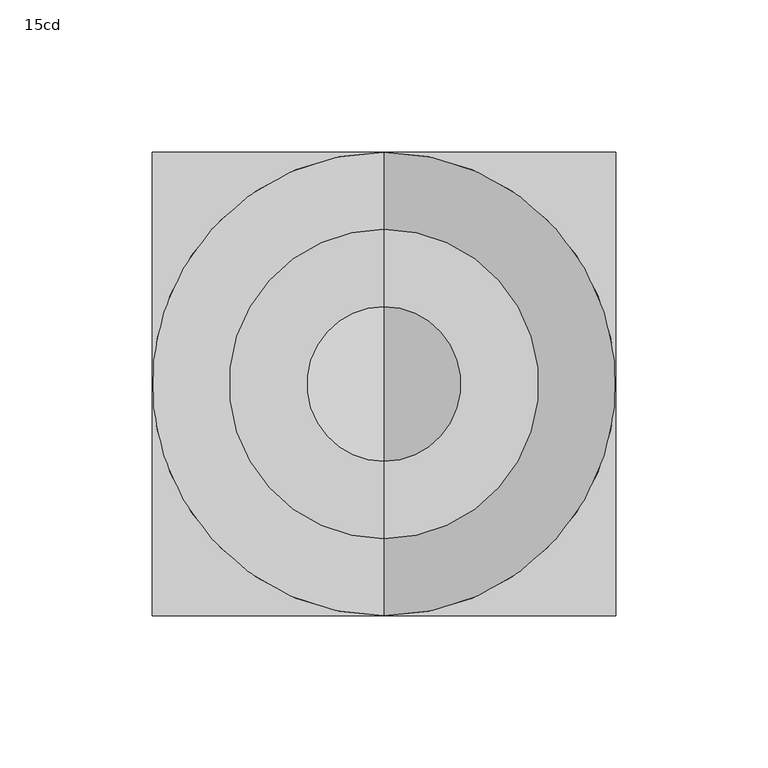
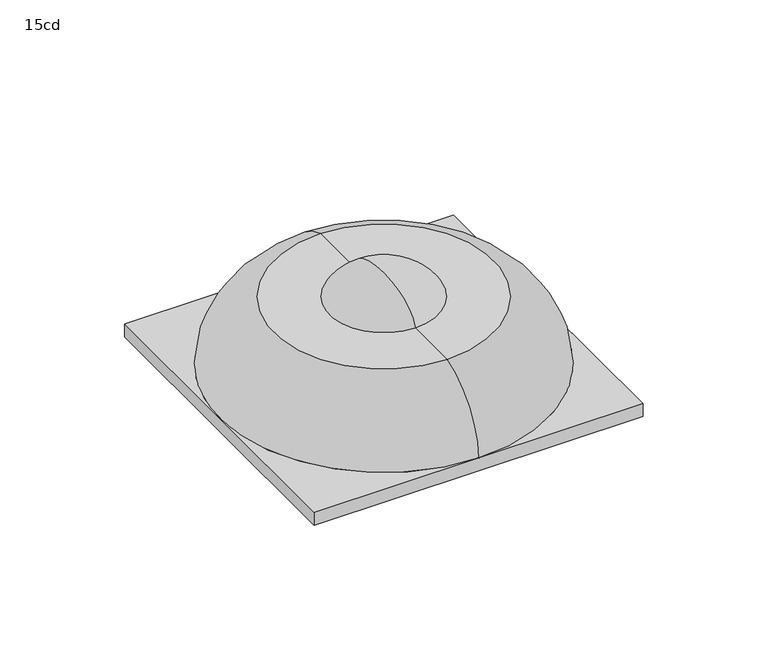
"""IFC4 building model written with IfcOpenShell, lengths in millimetres: alarm geometry, FireBIM Tutorial Strobe (Ceiling) : 15cd."""

from ifc_helpers import new_model, si_unit, point, frame, origin, place, context, project, spatial, circle_curve, ellipse_curve, trimmed, source, transform, mapped, element, save
from ifc_brep_helpers import plane_surface, revolved_surface, spline_curve, advanced_brep


def alarm_15cd_51c740ec(model_context):
    return source(origin(), model_context, "Body", "AdvancedBrep", [
        advanced_brep(
        [(0.0, -25.4, 33.02), (0.0, 25.4, 33.02), (0.0, 50.8, 33.02), (0.0, -50.8, 33.02), (76.2, 76.2, -6.35), (76.2, -76.2, -6.35), (-76.2, -76.2, -6.35), (-76.2, 76.2, -6.35), (76.2, 76.2, 0.0), (0.0, 76.2, 0.0), (76.2, -5.6e-06, 0.0), (-76.2, 76.2, 0.0), (-76.2, 5.6e-06, 0.0), (-76.2, -76.2, 0.0), (0.0, -76.2, 0.0), (76.2, -76.2, 0.0), (0.0, 0.0, 44.45)],
        [
            (0, 1, circle_curve(frame((0.0, 0.0, 33.02), z_axis=(0.0, 0.0, -1.0), x_axis=(0.0, 1.0, 0.0)), 25.4)),
            (1, 2),
            (2, 3, circle_curve(frame((0.0, 0.0, 33.02), z_axis=(0.0, 0.0, 1.0), x_axis=(0.0, 1.0, 0.0)), 50.8)),
            (3, 0),
            (1, 0, circle_curve(frame((0.0, 0.0, 33.02), z_axis=(0.0, 0.0, -1.0), x_axis=(0.0, 1.0, 0.0)), 25.4)),
            (3, 2, circle_curve(frame((0.0, 0.0, 33.02), z_axis=(0.0, 0.0, 1.0), x_axis=(0.0, 1.0, 0.0)), 50.8)),
            (4, 5),
            (5, 6),
            (6, 7),
            (7, 4),
            (8, 9),
            (9, 10, circle_curve(frame((0.0, 0.0, 0.0), z_axis=(0.0, 0.0, -1.0), x_axis=(0.0, 1.0, 0.0)), 76.2)),
            (10, 8),
            (9, 11),
            (11, 12),
            (12, 9, circle_curve(frame((0.0, 0.0, 0.0), z_axis=(0.0, 0.0, -1.0), x_axis=(0.0, 1.0, 0.0)), 76.2)),
            (13, 14),
            (14, 12, circle_curve(frame((0.0, 0.0, 0.0), z_axis=(0.0, 0.0, -1.0), x_axis=(0.0, 1.0, 0.0)), 76.2)),
            (12, 13),
            (14, 15),
            (15, 10),
            (10, 14, circle_curve(frame((0.0, 0.0, 0.0), z_axis=(0.0, 0.0, -1.0), x_axis=(0.0, 1.0, 0.0)), 76.2)),
            (7, 11),
            (8, 4),
            (6, 13),
            (5, 15),
            (2, 9, circle_curve(frame((0.0, 40.0797542, -1.5055737), z_axis=(-1.0, 0.0, 0.0), x_axis=(0.0, 1.0, 0.0)), 36.1516101)),
            (14, 3, circle_curve(frame((0.0, -40.0797542, -1.5055737), z_axis=(-1.0, 0.0, 0.0), x_axis=(0.0, -1.0, 0.0)), 36.1516101)),
            (0, 16, spline_curve(3, [(0.0, -25.4, 33.02), (0.0, -22.040017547, 40.64), (0.0, -13.573350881, 44.45), (0.0, 0.0, 44.45)], [4, 4], [0.0, 0.05389086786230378])),
            (16, 1, spline_curve(3, [(0.0, 0.0, 44.45), (0.0, 13.573350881, 44.45), (0.0, 22.040017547, 40.64), (0.0, 25.4, 33.02)], [4, 4], [0.0, 0.05389086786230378])),
        ],
        [
            plane_surface(frame((0.0, 0.0, 33.02), z_axis=(0.0, 0.0, 1.0), x_axis=(0.0, 1.0, 0.0))),
            plane_surface(frame((-59.1374921, 76.2, -6.35), z_axis=(0.0, 0.0, -1.0), x_axis=(1.0, 0.0, 0.0))),
            plane_surface(frame((-59.1374921, 76.2, 0.0), z_axis=(0.0, 0.0, 1.0), x_axis=(-1.0, 0.0, 0.0))),
            plane_surface(frame((76.2, 76.2, 0.0), z_axis=(0.0, 1.0, 0.0), x_axis=(0.0, 0.0, -1.0))),
            plane_surface(frame((-76.2, 76.2, 0.0), z_axis=(-1.0, 0.0, 0.0), x_axis=(0.0, 0.0, -1.0))),
            plane_surface(frame((-76.2, -76.2, 0.0), z_axis=(0.0, -1.0, 0.0), x_axis=(0.0, 0.0, -1.0))),
            plane_surface(frame((76.2, -76.2, 0.0), z_axis=(1.0, 0.0, 0.0), x_axis=(0.0, 0.0, -1.0))),
            revolved_surface(trimmed(ellipse_curve(frame((0.0, 40.0797542, -1.5055737), z_axis=(1.0, 0.0, 0.0), x_axis=(0.0, 1.0, 0.0)), 36.1516101, 36.1516101), [point((0.0, 76.2, 0.0))], [point((0.0, 50.8, 33.02))], True, "CARTESIAN"), (0.0, 0.0, 90.17), (0.0, 0.0, 1.0)),
            revolved_surface(spline_curve(3, [(0.0, 25.4, 33.02), (0.0, 22.040017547, 40.64), (0.0, 13.573350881, 44.45), (0.0, 0.0, 44.45)], [4, 4], [0.0, 0.05389086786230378]), (0.0, 0.0, 90.17), (0.0, 0.0, 1.0)),
        ],
        [
            (0, [[1, 2, 3, 4]]),
            (0, [[-2, 5, -4, 6]]),
            (1, [[7, 8, 9, 10]]),
            (2, [[11, 12, 13]]),
            (2, [[14, 15, 16]]),
            (2, [[17, 18, 19]]),
            (2, [[20, 21, 22]]),
            (3, [[-10, 23, -14, -11, 24]]),
            (4, [[-9, 25, -19, -15, -23]]),
            (5, [[-8, 26, -20, -17, -25]]),
            (6, [[-7, -24, -13, -21, -26]]),
            (7, [[-3, 27, -16, -18, 28]]),
            (7, [[-6, -28, -22, -12, -27]]),
            (8, [[-1, 29, 30]]),
            (8, [[-5, -30, -29]]),
        ],
    ),
    ])


if __name__ == "__main__":
    model = new_model("IFC4")
    model_context = context("Model", 3, world=origin())
    ifc_project = project(units=[si_unit("LENGTHUNIT", "METRE", prefix="MILLI")], contexts=[model_context])
    site = spatial("IfcSite", under=ifc_project)
    building = spatial("IfcBuilding", under=site)
    placement = place(None, origin())
    alarm_15cd_shape = alarm_15cd_51c740ec(model_context)
    element("IfcAlarm", 1, ObjectType="FireBIM Tutorial Strobe (Ceiling) : 15cd", at=placement, inside=building, context=model_context, shape_type="MappedRepresentation", body=[
        mapped(alarm_15cd_shape, transform((0.0, 0.0, 0.0), x_axis=(1.0, 0.0, 0.0), y_axis=(0.0, 1.0, 0.0), z_axis=(0.0, 0.0, 1.0))),
    ])
    save(model, "model.ifc")
